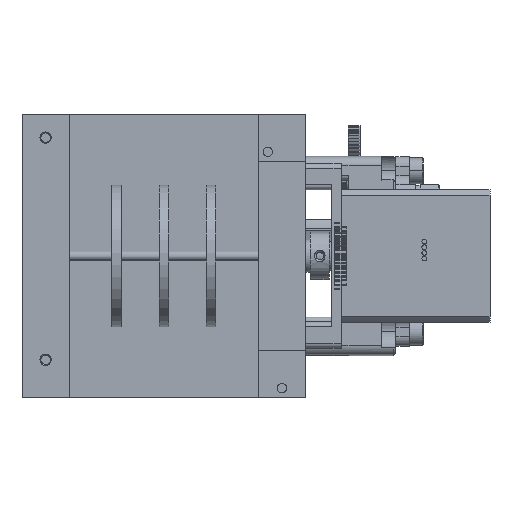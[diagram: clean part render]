
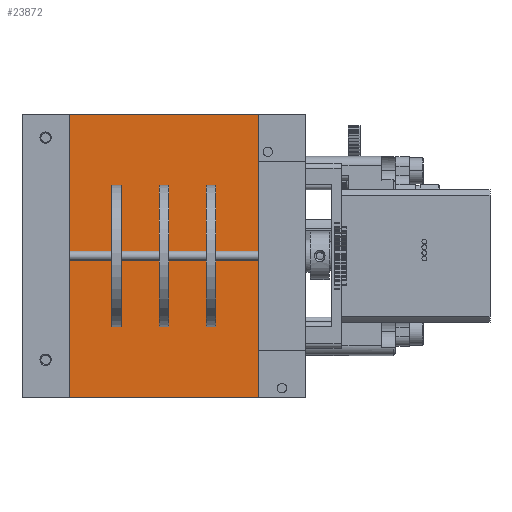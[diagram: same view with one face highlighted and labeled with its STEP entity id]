
A CAD part, top view. The second image highlights one B-rep face of the part: STEP entity #23872.
In plain terms, the highlighted planar face has unit normal (0, 0, 1) as drawn and (0, 0, -1) by its records, which use the part's own axes.
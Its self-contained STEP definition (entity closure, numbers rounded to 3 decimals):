
#9058 = EDGE_CURVE ( 'NONE', #59842, #59923, #15638, .T. ) ;
#9085 = EDGE_CURVE ( 'NONE', #59923, #59926, #15642, .T. ) ;
#9142 = EDGE_CURVE ( 'NONE', #59887, #59842, #15706, .T. ) ;
#9156 = EDGE_CURVE ( 'NONE', #59926, #59887, #15677, .T. ) ;
#13370 = ORIENTED_EDGE ( 'NONE', *, *, #9142, .F. ) ;
#13408 = ORIENTED_EDGE ( 'NONE', *, *, #9156, .F. ) ;
#13427 = ORIENTED_EDGE ( 'NONE', *, *, #9058, .F. ) ;
#13434 = ORIENTED_EDGE ( 'NONE', *, *, #9085, .F. ) ;
#14491 = EDGE_LOOP ( 'NONE', ( #13434, #13427, #13370, #13408 ) ) ;
#15626 = VECTOR ( 'NONE', #45943, 1000. ) ;
#15638 = LINE ( 'NONE', #45846, #15648 ) ;
#15642 = LINE ( 'NONE', #45939, #15626 ) ;
#15648 = VECTOR ( 'NONE', #45859, 1000. ) ;
#15655 = VECTOR ( 'NONE', #46145, 1000. ) ;
#15677 = LINE ( 'NONE', #46159, #15678 ) ;
#15678 = VECTOR ( 'NONE', #46149, 1000. ) ;
#15706 = LINE ( 'NONE', #46143, #15655 ) ;
#23614 = AXIS2_PLACEMENT_3D ( 'NONE', #28607, #28640, #28643 ) ;
#23872 = ADVANCED_FACE ( 'NONE', ( #24679 ), #28627, .F. ) ;
#24679 = FACE_OUTER_BOUND ( 'NONE', #14491, .T. ) ;
#28607 = CARTESIAN_POINT ( 'NONE',  ( 0., 0., 0. ) ) ;
#28627 = PLANE ( 'NONE',  #23614 ) ;
#28640 = DIRECTION ( 'NONE',  ( 0., 0., 1. ) ) ;
#28643 = DIRECTION ( 'NONE',  ( 1., 0., 0. ) ) ;
#45846 = CARTESIAN_POINT ( 'NONE',  ( -30., -20., 0. ) ) ;
#45859 = DIRECTION ( 'NONE',  ( 1., 0., 0. ) ) ;
#45939 = CARTESIAN_POINT ( 'NONE',  ( 30., 20., 0. ) ) ;
#45943 = DIRECTION ( 'NONE',  ( 0., 1., 0. ) ) ;
#46143 = CARTESIAN_POINT ( 'NONE',  ( -30., 20., 0. ) ) ;
#46145 = DIRECTION ( 'NONE',  ( 0., -1., 0. ) ) ;
#46149 = DIRECTION ( 'NONE',  ( -1., 0., 0. ) ) ;
#46159 = CARTESIAN_POINT ( 'NONE',  ( -30., 20., 0. ) ) ;
#51919 = CARTESIAN_POINT ( 'NONE',  ( -30., 20., 0. ) ) ;
#51949 = CARTESIAN_POINT ( 'NONE',  ( 30., -20., 0. ) ) ;
#51970 = CARTESIAN_POINT ( 'NONE',  ( -30., -20., 0. ) ) ;
#51992 = CARTESIAN_POINT ( 'NONE',  ( 30., 20., 0. ) ) ;
#59842 = VERTEX_POINT ( 'NONE', #51970 ) ;
#59887 = VERTEX_POINT ( 'NONE', #51919 ) ;
#59923 = VERTEX_POINT ( 'NONE', #51949 ) ;
#59926 = VERTEX_POINT ( 'NONE', #51992 ) ;
